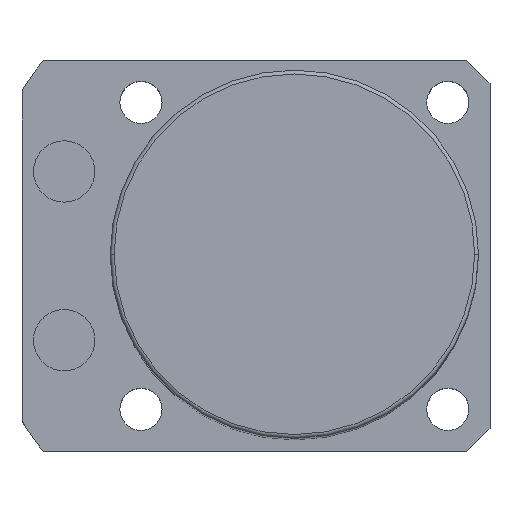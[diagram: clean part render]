
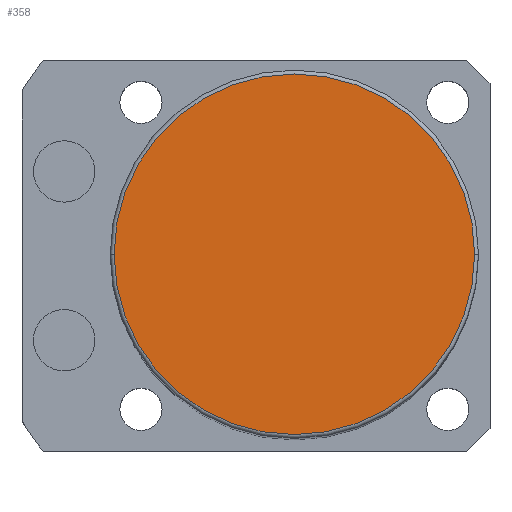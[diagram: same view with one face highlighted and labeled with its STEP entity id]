
A CAD part, top view. The second image highlights one B-rep face of the part: STEP entity #358.
In plain terms, the highlighted planar face has unit normal (0, 0, 1).
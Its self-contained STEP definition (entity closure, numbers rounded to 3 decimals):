
#358 = ADVANCED_FACE ( 'NONE', ( #1965 ), #841, .T. ) ;
#622 = DIRECTION ( 'NONE',  ( 1., 0., 0. ) ) ;
#780 = AXIS2_PLACEMENT_3D ( 'NONE', #1977, #2657, #1113 ) ;
#797 = VERTEX_POINT ( 'NONE', #2415 ) ;
#841 = PLANE ( 'NONE',  #2718 ) ;
#927 = AXIS2_PLACEMENT_3D ( 'NONE', #2030, #2688, #2010 ) ;
#1113 = DIRECTION ( 'NONE',  ( 1., 0., 0. ) ) ;
#1156 = EDGE_LOOP ( 'NONE', ( #1996, #1892 ) ) ;
#1209 = CIRCLE ( 'NONE', #927, 23.5 ) ;
#1229 = DIRECTION ( 'NONE',  ( 0., 0., 1. ) ) ;
#1488 = VERTEX_POINT ( 'NONE', #2288 ) ;
#1754 = EDGE_CURVE ( 'NONE', #1488, #797, #2625, .T. ) ;
#1892 = ORIENTED_EDGE ( 'NONE', *, *, #1754, .T. ) ;
#1905 = CARTESIAN_POINT ( 'NONE',  ( 0., 0., 131. ) ) ;
#1965 = FACE_OUTER_BOUND ( 'NONE', #1156, .T. ) ;
#1977 = CARTESIAN_POINT ( 'NONE',  ( 0., 0., 131. ) ) ;
#1996 = ORIENTED_EDGE ( 'NONE', *, *, #2587, .T. ) ;
#2010 = DIRECTION ( 'NONE',  ( 1., 0., 0. ) ) ;
#2030 = CARTESIAN_POINT ( 'NONE',  ( 0., 0., 131. ) ) ;
#2288 = CARTESIAN_POINT ( 'NONE',  ( -23.5, 0., 131. ) ) ;
#2415 = CARTESIAN_POINT ( 'NONE',  ( 23.5, 0., 131. ) ) ;
#2587 = EDGE_CURVE ( 'NONE', #797, #1488, #1209, .T. ) ;
#2625 = CIRCLE ( 'NONE', #780, 23.5 ) ;
#2657 = DIRECTION ( 'NONE',  ( 0., 0., 1. ) ) ;
#2688 = DIRECTION ( 'NONE',  ( 0., 0., 1. ) ) ;
#2718 = AXIS2_PLACEMENT_3D ( 'NONE', #1905, #1229, #622 ) ;
